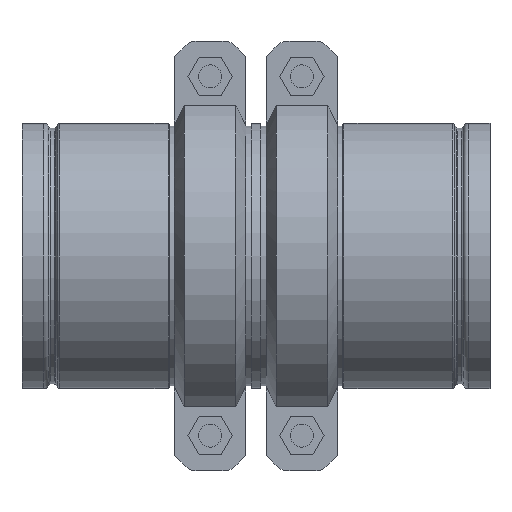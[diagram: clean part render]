
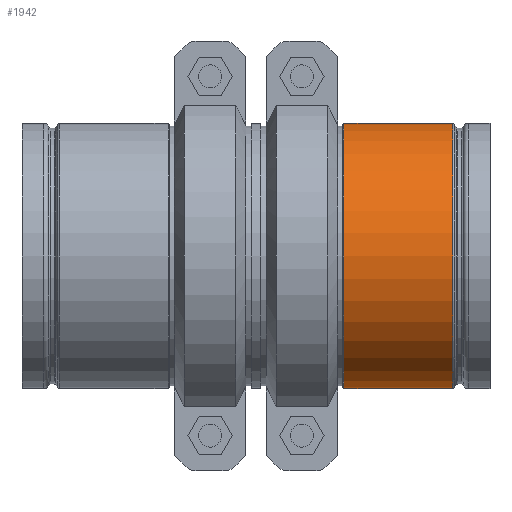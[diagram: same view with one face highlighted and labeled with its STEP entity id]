
A CAD part, front view. The second image highlights one B-rep face of the part: STEP entity #1942.
In plain terms, the highlighted cylindrical face has radius 109.537 mm (diameter 219.075 mm), a full revolution.
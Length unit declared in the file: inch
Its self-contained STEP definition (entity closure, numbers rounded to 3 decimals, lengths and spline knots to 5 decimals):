
#62=LINE('',#3193,#161);
#161=VECTOR('',#2554,4.3125);
#260=CYLINDRICAL_SURFACE('',#2196,4.3125);
#378=FACE_OUTER_BOUND('',#486,.T.);
#486=EDGE_LOOP('',(#1344,#1345,#1346,#1347,#1348,#1349,#1350,#1351));
#643=CIRCLE('',#2192,4.3125);
#644=CIRCLE('',#2193,4.3125);
#646=CIRCLE('',#2195,4.3125);
#647=CIRCLE('',#2197,4.3125);
#648=CIRCLE('',#2198,4.3125);
#649=CIRCLE('',#2199,4.3125);
#808=VERTEX_POINT('',#3180);
#809=VERTEX_POINT('',#3181);
#810=VERTEX_POINT('',#3183);
#811=VERTEX_POINT('',#3188);
#812=VERTEX_POINT('',#3189);
#813=VERTEX_POINT('',#3191);
#1019=EDGE_CURVE('',#808,#809,#643,.T.);
#1020=EDGE_CURVE('',#809,#810,#644,.T.);
#1022=EDGE_CURVE('',#810,#808,#646,.T.);
#1023=EDGE_CURVE('',#811,#812,#647,.T.);
#1024=EDGE_CURVE('',#813,#811,#648,.T.);
#1025=EDGE_CURVE('',#813,#809,#62,.T.);
#1026=EDGE_CURVE('',#812,#813,#649,.T.);
#1344=ORIENTED_EDGE('',*,*,#1023,.F.);
#1345=ORIENTED_EDGE('',*,*,#1024,.F.);
#1346=ORIENTED_EDGE('',*,*,#1025,.T.);
#1347=ORIENTED_EDGE('',*,*,#1019,.F.);
#1348=ORIENTED_EDGE('',*,*,#1022,.F.);
#1349=ORIENTED_EDGE('',*,*,#1020,.F.);
#1350=ORIENTED_EDGE('',*,*,#1025,.F.);
#1351=ORIENTED_EDGE('',*,*,#1026,.F.);
#1942=ADVANCED_FACE('',(#378),#260,.T.);
#2192=AXIS2_PLACEMENT_3D('',#3182,#2540,#2541);
#2193=AXIS2_PLACEMENT_3D('',#3184,#2542,#2543);
#2195=AXIS2_PLACEMENT_3D('',#3186,#2546,#2547);
#2196=AXIS2_PLACEMENT_3D('',#3187,#2548,#2549);
#2197=AXIS2_PLACEMENT_3D('',#3190,#2550,#2551);
#2198=AXIS2_PLACEMENT_3D('',#3192,#2552,#2553);
#2199=AXIS2_PLACEMENT_3D('',#3194,#2555,#2556);
#2540=DIRECTION('center_axis',(-1.,0.,0.));
#2541=DIRECTION('ref_axis',(0.,-1.,0.));
#2542=DIRECTION('center_axis',(-1.,0.,0.));
#2543=DIRECTION('ref_axis',(0.,-1.,0.));
#2546=DIRECTION('center_axis',(-1.,0.,0.));
#2547=DIRECTION('ref_axis',(0.,-1.,0.));
#2548=DIRECTION('center_axis',(1.,0.,0.));
#2549=DIRECTION('ref_axis',(0.,1.,0.));
#2550=DIRECTION('center_axis',(1.,0.,0.));
#2551=DIRECTION('ref_axis',(0.,-1.,0.));
#2552=DIRECTION('center_axis',(1.,0.,0.));
#2553=DIRECTION('ref_axis',(0.,-1.,0.));
#2554=DIRECTION('',(-1.,0.,0.));
#2555=DIRECTION('center_axis',(1.,0.,0.));
#2556=DIRECTION('ref_axis',(0.,-1.,0.));
#3180=CARTESIAN_POINT('',(1.249,4.3125,0.));
#3181=CARTESIAN_POINT('',(1.249,-4.3125,0.));
#3182=CARTESIAN_POINT('Origin',(1.249,0.,0.));
#3183=CARTESIAN_POINT('',(1.249,0.,4.3125));
#3184=CARTESIAN_POINT('Origin',(1.249,0.,0.));
#3186=CARTESIAN_POINT('Origin',(1.249,0.,0.));
#3187=CARTESIAN_POINT('Origin',(3.01773,0.,0.));
#3188=CARTESIAN_POINT('',(4.78523,4.3125,0.));
#3189=CARTESIAN_POINT('',(4.78523,0.,4.3125));
#3190=CARTESIAN_POINT('Origin',(4.78523,0.,0.));
#3191=CARTESIAN_POINT('',(4.78523,-4.3125,0.));
#3192=CARTESIAN_POINT('Origin',(4.78523,0.,0.));
#3193=CARTESIAN_POINT('',(3.01773,-4.3125,0.));
#3194=CARTESIAN_POINT('Origin',(4.78523,0.,0.));
